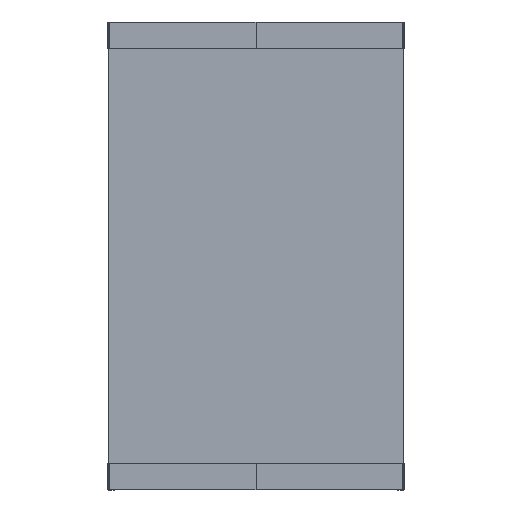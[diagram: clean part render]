
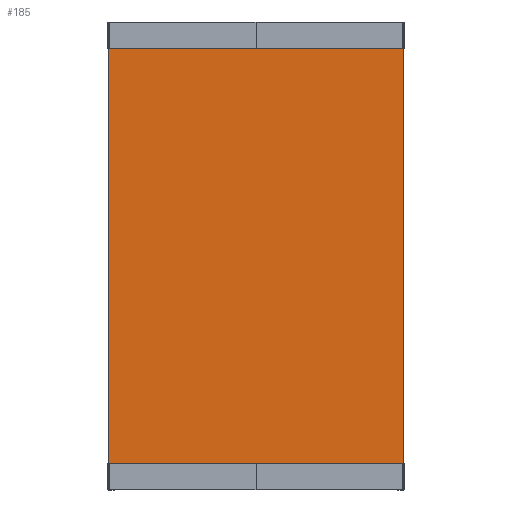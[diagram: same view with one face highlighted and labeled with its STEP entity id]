
A CAD part, top view. The second image highlights one B-rep face of the part: STEP entity #185.
In plain terms, the highlighted planar face has unit normal (0, 0, 1).
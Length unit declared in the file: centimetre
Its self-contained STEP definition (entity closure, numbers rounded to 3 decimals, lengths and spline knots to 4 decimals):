
#185=ADVANCED_FACE($,(#345),#2019,.T.);
#345=FACE_OUTER_BOUND($,#513,.T.);
#513=EDGE_LOOP($,(#1170,#1171,#1172,#1173));
#1170=ORIENTED_EDGE($,*,*,#1584,.F.);
#1171=ORIENTED_EDGE($,*,*,#1585,.F.);
#1172=ORIENTED_EDGE($,*,*,#1589,.F.);
#1173=ORIENTED_EDGE($,*,*,#1581,.F.);
#1581=EDGE_CURVE($,#1843,#1842,#2351,.T.);
#1584=EDGE_CURVE($,#1846,#1843,#2354,.T.);
#1585=EDGE_CURVE($,#1847,#1846,#2355,.T.);
#1589=EDGE_CURVE($,#1842,#1847,#2359,.T.);
#1842=VERTEX_POINT($,#3926);
#1843=VERTEX_POINT($,#3927);
#1846=VERTEX_POINT($,#3930);
#1847=VERTEX_POINT($,#3931);
#2019=PLANE($,#2635);
#2351=B_SPLINE_CURVE_WITH_KNOTS($,3,(#3898,#3899,#3900,#3901),.UNSPECIFIED.,
.F.,.F.,(4,4),(0.,78.9),.UNSPECIFIED.);
#2354=B_SPLINE_CURVE_WITH_KNOTS($,1,(#3906,#3907),.UNSPECIFIED.,.F.,.F.,
(2,2),(0.,111.),.UNSPECIFIED.);
#2355=B_SPLINE_CURVE_WITH_KNOTS($,1,(#3908,#3909),.UNSPECIFIED.,.F.,.F.,
(2,2),(0.,78.9),.UNSPECIFIED.);
#2359=B_SPLINE_CURVE_WITH_KNOTS($,1,(#3916,#3917),.UNSPECIFIED.,.F.,.F.,
(2,2),(15.,126.),.UNSPECIFIED.);
#2635=AXIS2_PLACEMENT_3D($,#3923,#2798,$);
#2798=DIRECTION($,(0.,0.,1.));
#3898=CARTESIAN_POINT($,(225.55,49.,74.51));
#3899=CARTESIAN_POINT($,(251.85,49.,74.51));
#3900=CARTESIAN_POINT($,(278.15,49.,74.51));
#3901=CARTESIAN_POINT($,(304.45,49.,74.51));
#3906=CARTESIAN_POINT($,(225.55,-62.,74.51));
#3907=CARTESIAN_POINT($,(225.55,49.,74.51));
#3908=CARTESIAN_POINT($,(304.45,-62.,74.51));
#3909=CARTESIAN_POINT($,(225.55,-62.,74.51));
#3916=CARTESIAN_POINT($,(304.45,49.,74.51));
#3917=CARTESIAN_POINT($,(304.45,-62.,74.51));
#3923=CARTESIAN_POINT($,(225.55,-62.,74.51));
#3926=CARTESIAN_POINT($,(304.45,49.,74.51));
#3927=CARTESIAN_POINT($,(225.55,49.,74.51));
#3930=CARTESIAN_POINT($,(225.55,-62.,74.51));
#3931=CARTESIAN_POINT($,(304.45,-62.,74.51));
